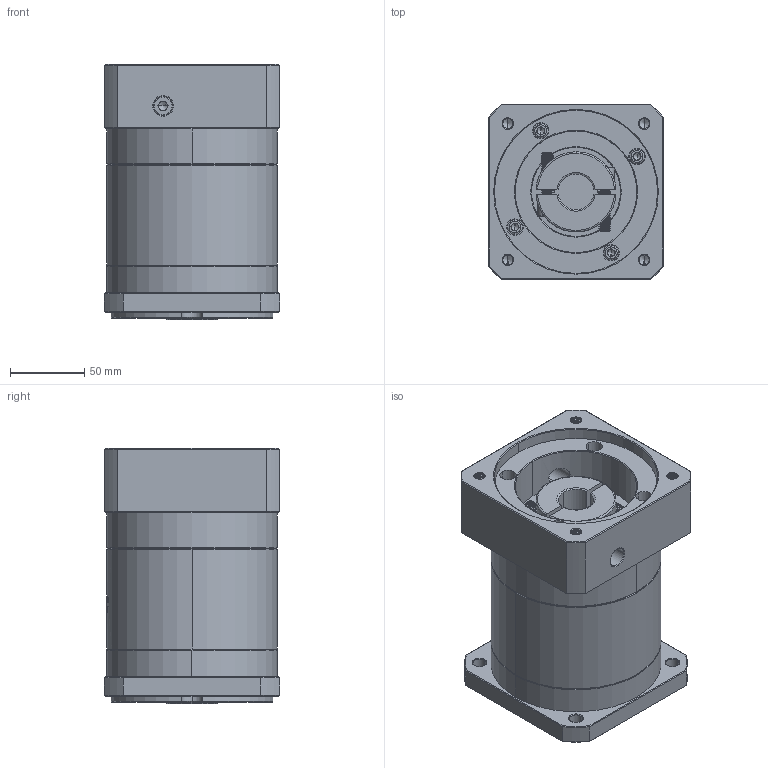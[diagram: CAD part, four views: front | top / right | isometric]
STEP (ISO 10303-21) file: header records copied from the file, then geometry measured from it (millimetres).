
FILE_DESCRIPTION (( 'STEP AP214' ), '1' );
FILE_NAME ('ZF120A-K25-L2-P2-24-110-130-M8.step', '2023-08-27T04:51:45', ( '' ), ( '' ), 'SwSTEP 2.0', 'SolidWorks 2016', '' );
FILE_SCHEMA (( 'AUTOMOTIVE_DESIGN' ));
Length unit declared in the file: millimetre
Products named in the file (1): ZF120A-K25-L2-P2-24-110-130-M8
Bounding box: 118 x 118 x 172 mm (x, y, z)
Volume: 1691257.3 mm3; surface area: 174430.2 mm2
Topology: 6 solids, 6 shells, 2163 faces, 5742 edges, 3684 vertices
Faces by surface type: plane 1027, bspline 410, cylinder 389, cone 317, torus 20
Entity records: 117316 total; most frequent: CARTESIAN_POINT 44980, ORIENTED_EDGE 11428, DIRECTION 8299, EDGE_CURVE 5714, VERTEX_POINT 3684, LINE 3039, VECTOR 3039, AXIS2_PLACEMENT_3D 2630
